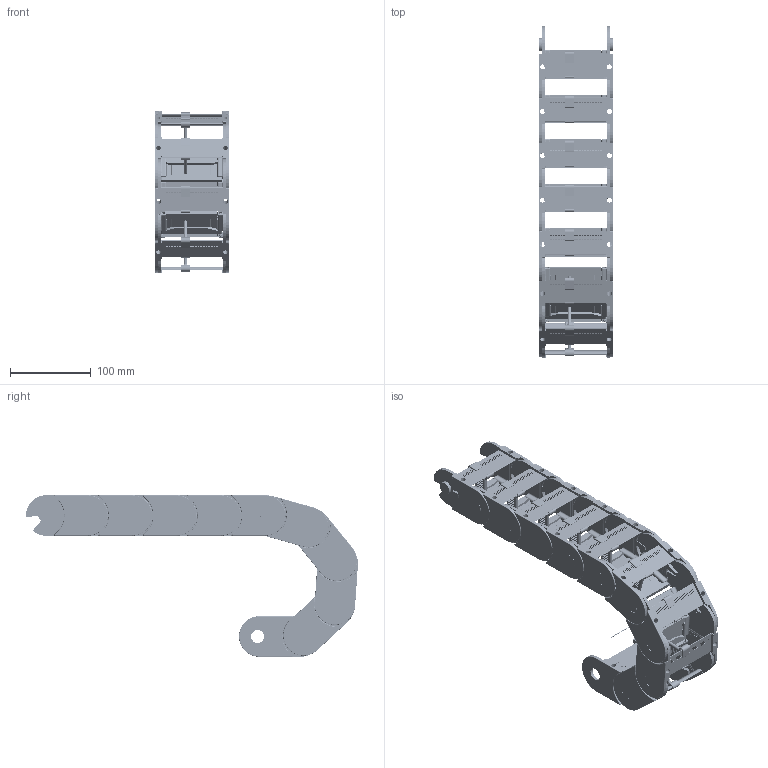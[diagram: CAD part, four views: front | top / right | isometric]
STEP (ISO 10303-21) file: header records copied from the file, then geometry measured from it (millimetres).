
FILE_DESCRIPTION((''),'2;1');
FILE_NAME('C:\Uebbing\PARAMETERKETTEN\KOLIBRI\Kol_50_095_2\KOLIBRI 50_095_2_R75.stp','2012-03-05T09:45:04',('Uebbing'),(''),'Autodesk Inventor 10','Autodesk Inventor 10','');
FILE_SCHEMA(('AUTOMOTIVE_DESIGN { 1 0 10303 214 1 1 1 1 }'));
Length unit declared in the file: millimetre
Products named in the file (6): KOLIBRI 50_095_2_PARAMETRISCH; Achse; Kol_50_095_2; Kol_50_095_2_Lasche; Kol_50_95_0_Klappsteg; Kol_50_095_2 PZ 
Assembly tree (14 placements, depth 3):
  KOLIBRI 50_095_2_PARAMETRISCH
    Achse
    Kol_50_095_2  x10
      Kol_50_095_2_Lasche
      Kol_50_95_0_Klappsteg
      Kol_50_095_2 PZ 
Bounding box: 92.88 x 411.21 x 200.25 mm (x, y, z)
Volume: 589699.2 mm3; surface area: 398056.1 mm2
Topology: 31 solids, 31 shells, 8673 faces, 22854 edges, 14903 vertices
Faces by surface type: plane 4652, cylinder 1911, bspline 1850, torus 200, sphere 40, cone 20
Full cylindrical faces by diameter (mm): 1 x1, 2.021 x10, 3.549 x10, 4 x10, 4.036 x10, 4.221 x20, 6.231 x10, 16.08 x10, 16.18 x10
Entity records: 31670 total; most frequent: CARTESIAN_POINT 10421, ORIENTED_EDGE 4498, DIRECTION 4139, EDGE_CURVE 2249, VECTOR 1599, LINE 1599, VERTEX_POINT 1478, AXIS2_PLACEMENT_3D 1270
